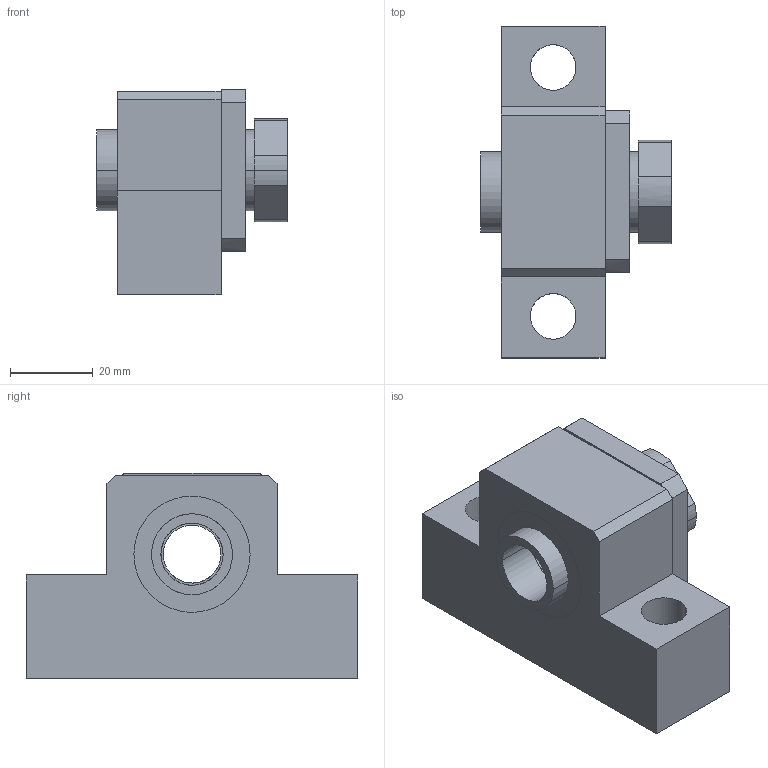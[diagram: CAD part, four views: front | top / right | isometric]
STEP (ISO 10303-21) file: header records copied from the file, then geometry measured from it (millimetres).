
FILE_DESCRIPTION(('CATIA V5 STEP Exchange'),'2;1');
FILE_NAME('D:\서포트 완성도면\EK\EK15.stp','2014-03-24T10:11:45+00:00',('none'),('none'),'CATIA Version 5 Release 18 GA (IN-10)','CATIA V5 STEP AP203','none');
FILE_SCHEMA(('CONFIG_CONTROL_DESIGN'));
Length unit declared in the file: millimetre
Products named in the file (1): EK15
Assembly tree (4 placements, depth 2):
  EK15
    #56
    #1679  x2
    #1943
Bounding box: 46 x 80 x 49.5 mm (x, y, z)
Volume: 75485.4 mm3; surface area: 20198.4 mm2
Topology: 4 solids, 4 shells, 66 faces, 162 edges, 108 vertices
Faces by surface type: cylinder 34, plane 32
Entity records: 2422 total; most frequent: CARTESIAN_POINT 964, ORIENTED_EDGE 300, DIRECTION 228, EDGE_CURVE 150, VERTEX_POINT 100, VECTOR 88, LINE 88, AXIS2_PLACEMENT_3D 80
